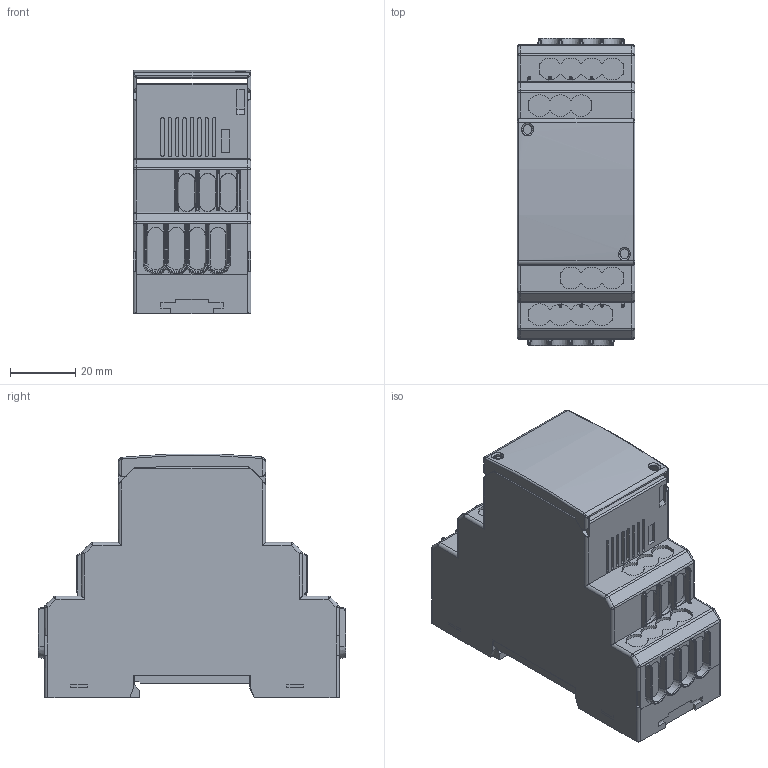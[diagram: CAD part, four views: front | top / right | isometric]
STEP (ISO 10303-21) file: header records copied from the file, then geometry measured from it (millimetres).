
FILE_DESCRIPTION(/* description */ (''),/* implementation_level */ '2;1');
FILE_NAME(/* name */ 'X:\Digidirect\CAD\Importierte Komponenten\IR425\IR425 3.stp',/* time_stamp */ '2013-10-10T12:08:31+02:00',/* author */ ('Maik Jost'),/* organization */ (''),/* preprocessor_version */ 'ST-DEVELOPER v15.2',/* originating_system */ 'Autodesk Inventor 2014',/* authorisation */ '');
FILE_SCHEMA (('CONFIG_CONTROL_DESIGN'));
Length unit declared in the file: millimetre
Products named in the file (2): IR425_Substitute_3; IR425
Bounding box: 36 x 94 x 74.5 mm (x, y, z)
Surface area: 32119.2 mm2 (no closed solid volume)
Topology: 0 solids, 4 shells, 569 faces, 1911 edges, 1282 vertices
Faces by surface type: plane 275, cylinder 161, bspline 55, cone 36, torus 26, sphere 16
Entity records: 22764 total; most frequent: CARTESIAN_POINT 6544, DIRECTION 3341, ORIENTED_EDGE 3202, EDGE_CURVE 1899, VERTEX_POINT 1282, LINE 1199, VECTOR 1199, AXIS2_PLACEMENT_3D 1071
